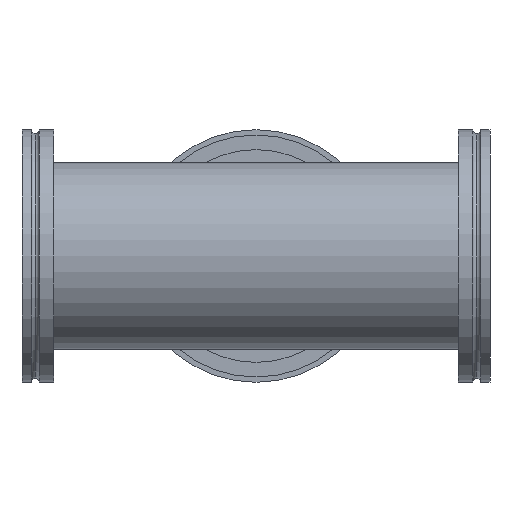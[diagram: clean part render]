
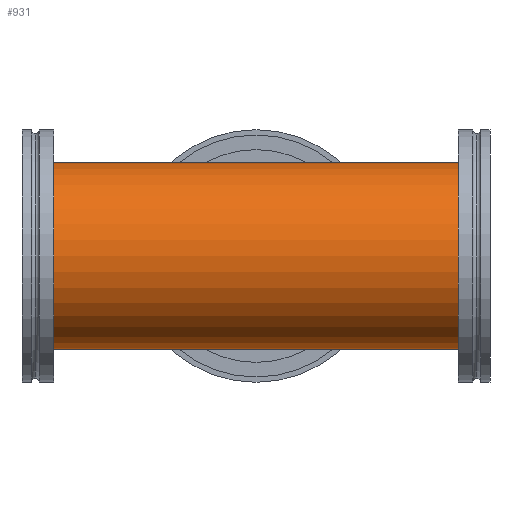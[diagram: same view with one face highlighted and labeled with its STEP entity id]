
A CAD part, left-side view. The second image highlights one B-rep face of the part: STEP entity #931.
In plain terms, the highlighted cylindrical face has radius 35 mm (diameter 70 mm), a partial arc.
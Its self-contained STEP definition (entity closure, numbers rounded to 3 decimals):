
#8 = EDGE_CURVE ( 'NONE', #53, #2080, #2272, .T. ) ;
#33 = VECTOR ( 'NONE', #2128, 1000. ) ;
#40 = DIRECTION ( 'NONE',  ( 0., 1., 0. ) ) ;
#53 = VERTEX_POINT ( 'NONE', #196 ) ;
#155 = DIRECTION ( 'NONE',  ( 0., 0., -1. ) ) ;
#184 = CARTESIAN_POINT ( 'NONE',  ( 0., 168., 0. ) ) ;
#193 = CARTESIAN_POINT ( 'NONE',  ( 0., 8., -35. ) ) ;
#196 = CARTESIAN_POINT ( 'NONE',  ( 0., 88., 35. ) ) ;
#210 = CYLINDRICAL_SURFACE ( 'NONE', #383, 35. ) ;
#228 = ORIENTED_EDGE ( 'NONE', *, *, #1697, .T. ) ;
#261 = ORIENTED_EDGE ( 'NONE', *, *, #306, .T. ) ;
#306 = EDGE_CURVE ( 'NONE', #1430, #53, #1035, .T. ) ;
#310 = LINE ( 'NONE', #1094, #907 ) ;
#333 = DIRECTION ( 'NONE',  ( 0., -1., 0. ) ) ;
#366 = VERTEX_POINT ( 'NONE', #193 ) ;
#383 = AXIS2_PLACEMENT_3D ( 'NONE', #998, #40, #1781 ) ;
#625 = ORIENTED_EDGE ( 'NONE', *, *, #2480, .F. ) ;
#666 = EDGE_CURVE ( 'NONE', #366, #1716, #310, .T. ) ;
#800 = CARTESIAN_POINT ( 'NONE',  ( 0., -0.002, -35. ) ) ;
#813 = VECTOR ( 'NONE', #1918, 1000. ) ;
#904 = DIRECTION ( 'NONE',  ( 0., 1., 0. ) ) ;
#907 = VECTOR ( 'NONE', #904, 1000. ) ;
#931 = ADVANCED_FACE ( 'NONE', ( #1380 ), #210, .T. ) ;
#944 = CARTESIAN_POINT ( 'NONE',  ( 0., 8., 35. ) ) ;
#998 = CARTESIAN_POINT ( 'NONE',  ( 0., -0.002, 0. ) ) ;
#1035 = LINE ( 'NONE', #2397, #2230 ) ;
#1065 = CARTESIAN_POINT ( 'NONE',  ( 0., 168., 35. ) ) ;
#1094 = CARTESIAN_POINT ( 'NONE',  ( 0., -0.002, -35. ) ) ;
#1117 = CARTESIAN_POINT ( 'NONE',  ( 0., 168., -35. ) ) ;
#1222 = VERTEX_POINT ( 'NONE', #1117 ) ;
#1224 = DIRECTION ( 'NONE',  ( 0., 1., 0. ) ) ;
#1253 = EDGE_CURVE ( 'NONE', #1430, #366, #2379, .T. ) ;
#1274 = CARTESIAN_POINT ( 'NONE',  ( 0., 8., 0. ) ) ;
#1293 = AXIS2_PLACEMENT_3D ( 'NONE', #1274, #1656, #2232 ) ;
#1380 = FACE_OUTER_BOUND ( 'NONE', #1637, .T. ) ;
#1430 = VERTEX_POINT ( 'NONE', #944 ) ;
#1637 = EDGE_LOOP ( 'NONE', ( #2371, #2014, #261, #2473, #228, #625 ) ) ;
#1653 = CIRCLE ( 'NONE', #2469, 35. ) ;
#1656 = DIRECTION ( 'NONE',  ( 0., -1., 0. ) ) ;
#1697 = EDGE_CURVE ( 'NONE', #2080, #1222, #1653, .T. ) ;
#1716 = VERTEX_POINT ( 'NONE', #1723 ) ;
#1723 = CARTESIAN_POINT ( 'NONE',  ( 0., 88., -35. ) ) ;
#1781 = DIRECTION ( 'NONE',  ( 0., 0., 1. ) ) ;
#1885 = LINE ( 'NONE', #800, #33 ) ;
#1918 = DIRECTION ( 'NONE',  ( 0., 1., 0. ) ) ;
#2014 = ORIENTED_EDGE ( 'NONE', *, *, #1253, .F. ) ;
#2080 = VERTEX_POINT ( 'NONE', #1065 ) ;
#2128 = DIRECTION ( 'NONE',  ( 0., 1., 0. ) ) ;
#2230 = VECTOR ( 'NONE', #1224, 1000. ) ;
#2232 = DIRECTION ( 'NONE',  ( 0., 0., -1. ) ) ;
#2272 = LINE ( 'NONE', #2449, #813 ) ;
#2371 = ORIENTED_EDGE ( 'NONE', *, *, #666, .F. ) ;
#2379 = CIRCLE ( 'NONE', #1293, 35. ) ;
#2397 = CARTESIAN_POINT ( 'NONE',  ( 0., -0.002, 35. ) ) ;
#2449 = CARTESIAN_POINT ( 'NONE',  ( 0., -0.002, 35. ) ) ;
#2469 = AXIS2_PLACEMENT_3D ( 'NONE', #184, #333, #155 ) ;
#2473 = ORIENTED_EDGE ( 'NONE', *, *, #8, .T. ) ;
#2480 = EDGE_CURVE ( 'NONE', #1716, #1222, #1885, .T. ) ;
